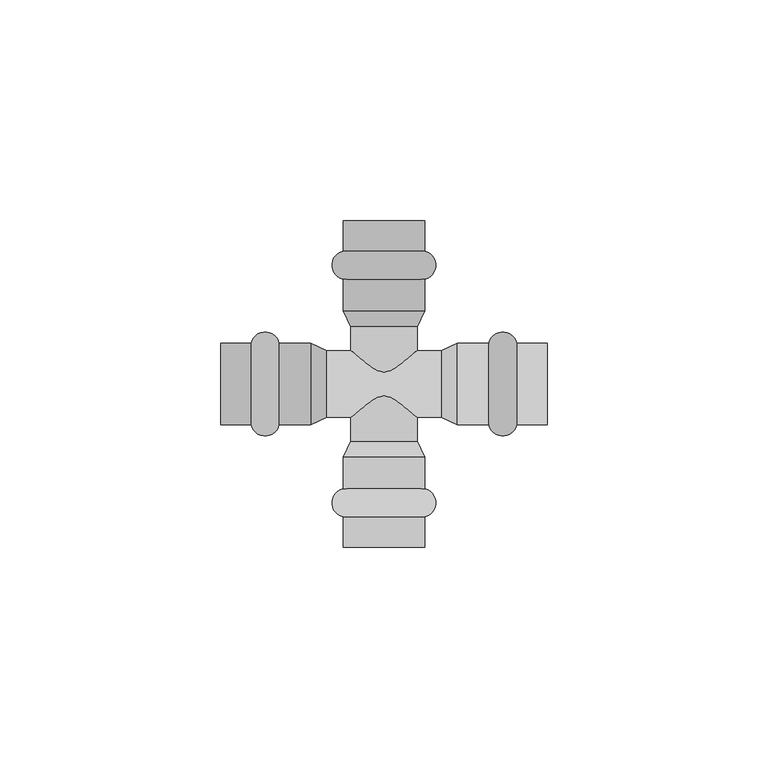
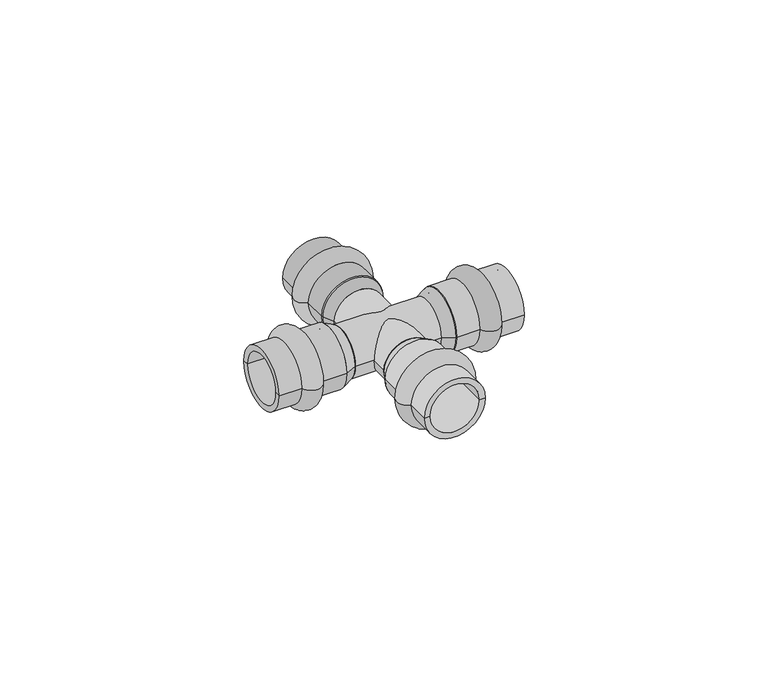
"""IFC4 building model written with IfcOpenShell, lengths in millimetres: pipe fitting geometry, VALTEC_VTi.941.I_Крестовина нержавеющая сталь : VTi.941.I."""

from ifc_helpers import new_model, si_unit, point, frame, origin, origin_2d, place, context, project, spatial, polyline, circle_curve, ellipse_curve, trimmed, segment, composite_curve, outline, extrude, source, transform, mapped, element, save
from ifc_brep_helpers import plane_surface, cylinder_surface, revolved_surface, advanced_brep


def pipe_fitting_6b53da01(model_context):
    return source(origin(), model_context, "Body", "SolidModel", [
        advanced_brep(
        [(9.25, -30.1122777, 0.0), (-9.25, -30.1122777, 0.0), (-9.25, -23.7877223, 0.0), (9.25, -23.7877223, 0.0), (9.25, -37.0, 0.0), (-9.25, -37.0, 0.0), (7.5, -37.0, 0.0), (-7.5, -37.0, 0.0), (7.5, -16.65, 0.0), (-7.5, -16.65, 0.0), (9.25, -16.65, 0.0), (-9.25, -16.65, 0.0)],
        [
            (0, 1, circle_curve(frame((0.0, -30.1122777, 0.0), z_axis=(0.0, 1.0, 0.0), x_axis=(-1.0, 0.0, 0.0)), 9.25)),
            (1, 2, circle_curve(frame((-8.5, -26.95, 0.0), z_axis=(0.0, 0.0, -1.0), x_axis=(0.0, 1.0, 0.0)), 3.25)),
            (2, 3, circle_curve(frame((0.0, -23.7877223, 0.0), z_axis=(0.0, -1.0, 0.0), x_axis=(-1.0, 0.0, 0.0)), 9.25)),
            (3, 0, circle_curve(frame((8.5, -26.95, 0.0), z_axis=(0.0, 0.0, -1.0), x_axis=(0.0, 1.0, 0.0)), 3.25)),
            (1, 0, circle_curve(frame((0.0, -30.1122777, 0.0), z_axis=(0.0, 1.0, 0.0), x_axis=(-1.0, 0.0, 0.0)), 9.25)),
            (3, 2, circle_curve(frame((0.0, -23.7877223, 0.0), z_axis=(0.0, -1.0, 0.0), x_axis=(-1.0, 0.0, 0.0)), 9.25)),
            (4, 5, circle_curve(frame((0.0, -37.0, 0.0), z_axis=(0.0, 1.0, 0.0), x_axis=(-1.0, 0.0, 0.0)), 9.25)),
            (5, 1),
            (0, 4),
            (5, 4, circle_curve(frame((0.0, -37.0, 0.0), z_axis=(0.0, 1.0, 0.0), x_axis=(-1.0, 0.0, 0.0)), 9.25)),
            (6, 7, circle_curve(frame((0.0, -37.0, 0.0), z_axis=(0.0, 1.0, 0.0), x_axis=(-1.0, 0.0, 0.0)), 7.5)),
            (7, 5),
            (4, 6),
            (7, 6, circle_curve(frame((0.0, -37.0, 0.0), z_axis=(0.0, 1.0, 0.0), x_axis=(-1.0, 0.0, 0.0)), 7.5)),
            (8, 9, circle_curve(frame((0.0, -16.65, 0.0), z_axis=(0.0, 1.0, 0.0), x_axis=(-1.0, 0.0, 0.0)), 7.5)),
            (9, 7),
            (6, 8),
            (9, 8, circle_curve(frame((0.0, -16.65, 0.0), z_axis=(0.0, 1.0, 0.0), x_axis=(-1.0, 0.0, 0.0)), 7.5)),
            (10, 11, circle_curve(frame((0.0, -16.65, 0.0), z_axis=(0.0, 1.0, 0.0), x_axis=(-1.0, 0.0, 0.0)), 9.25)),
            (11, 9),
            (8, 10),
            (11, 10, circle_curve(frame((0.0, -16.65, 0.0), z_axis=(0.0, 1.0, 0.0), x_axis=(-1.0, 0.0, 0.0)), 9.25)),
            (2, 11),
            (10, 3),
        ],
        [
            revolved_surface(trimmed(ellipse_curve(frame((-8.5, -26.95, 0.0), z_axis=(0.0, 0.0, 1.0), x_axis=(0.0, 1.0, 0.0)), 3.25, 3.25), [point((-9.25, -23.7877223, 0.0))], [point((-9.25, -30.1122777, 0.0))], True, "CARTESIAN"), (0.0, -40.5364426, 0.0), (0.0, -1.0, 0.0)),
            cylinder_surface(frame((0.0, -40.5364426, 0.0), z_axis=(0.0, -1.0, 0.0), x_axis=(-1.0, 0.0, 0.0)), 9.25),
            plane_surface(frame((0.0, -37.0, 0.0), z_axis=(0.0, -1.0, 0.0), x_axis=(-1.0, 0.0, 0.0))),
            revolved_surface(polyline([(-7.5, -37.0, 0.0), (-7.5, -16.65, 0.0)]), (0.0, -40.5364426, 0.0), (0.0, -1.0, 0.0)),
            plane_surface(frame((0.0, -16.65, 0.0), z_axis=(0.0, 1.0, 0.0), x_axis=(-1.0, 0.0, 0.0))),
        ],
        [
            (0, [[1, 2, 3, 4]]),
            (0, [[5, -4, 6, -2]]),
            (1, [[7, 8, -1, 9]]),
            (1, [[10, -9, -5, -8]]),
            (2, [[11, 12, -7, 13]]),
            (2, [[14, -13, -10, -12]]),
            (3, [[15, 16, -11, 17]]),
            (3, [[18, -17, -14, -16]]),
            (4, [[19, 20, -15, 21]]),
            (4, [[22, -21, -18, -20]]),
            (1, [[-3, 23, -19, 24]]),
            (1, [[-6, -24, -22, -23]]),
        ],
    ),
        advanced_brep(
        [(30.1122777, 9.25, 0.0), (30.1122777, -9.25, 0.0), (23.7877223, -9.25, 0.0), (23.7877223, 9.25, 0.0), (37.0, 9.25, 0.0), (37.0, -9.25, 0.0), (37.0, 7.5, 0.0), (37.0, -7.5, 0.0), (16.65, 7.5, 0.0), (16.65, -7.5, 0.0), (16.65, 9.25, 0.0), (16.65, -9.25, 0.0)],
        [
            (0, 1, circle_curve(frame((30.1122777, 0.0, 0.0), z_axis=(-1.0, 0.0, 0.0), x_axis=(0.0, -1.0, 0.0)), 9.25)),
            (1, 2, circle_curve(frame((26.95, -8.5, 0.0), z_axis=(0.0, 0.0, -1.0), x_axis=(-1.0, 0.0, 0.0)), 3.25)),
            (2, 3, circle_curve(frame((23.7877223, 0.0, 0.0), z_axis=(1.0, 0.0, 0.0), x_axis=(0.0, -1.0, 0.0)), 9.25)),
            (3, 0, circle_curve(frame((26.95, 8.5, 0.0), z_axis=(0.0, 0.0, -1.0), x_axis=(-1.0, 0.0, 0.0)), 3.25)),
            (1, 0, circle_curve(frame((30.1122777, 0.0, 0.0), z_axis=(-1.0, 0.0, 0.0), x_axis=(0.0, -1.0, 0.0)), 9.25)),
            (3, 2, circle_curve(frame((23.7877223, 0.0, 0.0), z_axis=(1.0, 0.0, 0.0), x_axis=(0.0, -1.0, 0.0)), 9.25)),
            (4, 5, circle_curve(frame((37.0, 0.0, 0.0), z_axis=(-1.0, 0.0, 0.0), x_axis=(0.0, -1.0, 0.0)), 9.25)),
            (5, 1),
            (0, 4),
            (5, 4, circle_curve(frame((37.0, 0.0, 0.0), z_axis=(-1.0, 0.0, 0.0), x_axis=(0.0, -1.0, 0.0)), 9.25)),
            (6, 7, circle_curve(frame((37.0, 0.0, 0.0), z_axis=(-1.0, 0.0, 0.0), x_axis=(0.0, -1.0, 0.0)), 7.5)),
            (7, 5),
            (4, 6),
            (7, 6, circle_curve(frame((37.0, 0.0, 0.0), z_axis=(-1.0, 0.0, 0.0), x_axis=(0.0, -1.0, 0.0)), 7.5)),
            (8, 9, circle_curve(frame((16.65, 0.0, 0.0), z_axis=(-1.0, 0.0, 0.0), x_axis=(0.0, -1.0, 0.0)), 7.5)),
            (9, 7),
            (6, 8),
            (9, 8, circle_curve(frame((16.65, 0.0, 0.0), z_axis=(-1.0, 0.0, 0.0), x_axis=(0.0, -1.0, 0.0)), 7.5)),
            (10, 11, circle_curve(frame((16.65, 0.0, 0.0), z_axis=(-1.0, 0.0, 0.0), x_axis=(0.0, -1.0, 0.0)), 9.25)),
            (11, 9),
            (8, 10),
            (11, 10, circle_curve(frame((16.65, 0.0, 0.0), z_axis=(-1.0, 0.0, 0.0), x_axis=(0.0, -1.0, 0.0)), 9.25)),
            (2, 11),
            (10, 3),
        ],
        [
            revolved_surface(trimmed(ellipse_curve(frame((26.95, -8.5, 0.0), z_axis=(0.0, 0.0, 1.0), x_axis=(-1.0, 0.0, 0.0)), 3.25, 3.25), [point((23.7877223, -9.25, 0.0))], [point((30.1122777, -9.25, 0.0))], True, "CARTESIAN"), (40.5364426, 0.0, 0.0), (1.0, 0.0, 0.0)),
            cylinder_surface(frame((40.5364426, 0.0, 0.0), z_axis=(1.0, 0.0, 0.0), x_axis=(0.0, -1.0, 0.0)), 9.25),
            plane_surface(frame((37.0, 0.0, 0.0), z_axis=(1.0, 0.0, 0.0), x_axis=(0.0, -1.0, 0.0))),
            revolved_surface(polyline([(37.0, -7.5, 0.0), (16.65, -7.5, 0.0)]), (40.5364426, 0.0, 0.0), (1.0, 0.0, 0.0)),
            plane_surface(frame((16.65, 0.0, 0.0), z_axis=(-1.0, 0.0, 0.0), x_axis=(0.0, -1.0, 0.0))),
        ],
        [
            (0, [[1, 2, 3, 4]]),
            (0, [[5, -4, 6, -2]]),
            (1, [[7, 8, -1, 9]]),
            (1, [[10, -9, -5, -8]]),
            (2, [[11, 12, -7, 13]]),
            (2, [[14, -13, -10, -12]]),
            (3, [[15, 16, -11, 17]]),
            (3, [[18, -17, -14, -16]]),
            (4, [[19, 20, -15, 21]]),
            (4, [[22, -21, -18, -20]]),
            (1, [[-3, 23, -19, 24]]),
            (1, [[-6, -24, -22, -23]]),
        ],
    ),
        advanced_brep(
        [(-30.1122777, -9.25, 0.0), (-30.1122777, 9.25, 0.0), (-23.7877223, 9.25, 0.0), (-23.7877223, -9.25, 0.0), (-37.0, -9.25, 0.0), (-37.0, 9.25, 0.0), (-37.0, -7.5, 0.0), (-37.0, 7.5, 0.0), (-16.65, -7.5, 0.0), (-16.65, 7.5, 0.0), (-16.65, -9.25, 0.0), (-16.65, 9.25, 0.0)],
        [
            (0, 1, circle_curve(frame((-30.1122777, 0.0, 0.0), z_axis=(1.0, 0.0, 0.0), x_axis=(0.0, 1.0, 0.0)), 9.25)),
            (1, 2, circle_curve(frame((-26.95, 8.5, 0.0), z_axis=(0.0, 0.0, -1.0), x_axis=(1.0, 0.0, 0.0)), 3.25)),
            (2, 3, circle_curve(frame((-23.7877223, 0.0, 0.0), z_axis=(-1.0, 0.0, 0.0), x_axis=(0.0, 1.0, 0.0)), 9.25)),
            (3, 0, circle_curve(frame((-26.95, -8.5, 0.0), z_axis=(0.0, 0.0, -1.0), x_axis=(1.0, 0.0, 0.0)), 3.25)),
            (1, 0, circle_curve(frame((-30.1122777, 0.0, 0.0), z_axis=(1.0, 0.0, 0.0), x_axis=(0.0, 1.0, 0.0)), 9.25)),
            (3, 2, circle_curve(frame((-23.7877223, 0.0, 0.0), z_axis=(-1.0, 0.0, 0.0), x_axis=(0.0, 1.0, 0.0)), 9.25)),
            (4, 5, circle_curve(frame((-37.0, 0.0, 0.0), z_axis=(1.0, 0.0, 0.0), x_axis=(0.0, 1.0, 0.0)), 9.25)),
            (5, 1),
            (0, 4),
            (5, 4, circle_curve(frame((-37.0, 0.0, 0.0), z_axis=(1.0, 0.0, 0.0), x_axis=(0.0, 1.0, 0.0)), 9.25)),
            (6, 7, circle_curve(frame((-37.0, 0.0, 0.0), z_axis=(1.0, 0.0, 0.0), x_axis=(0.0, 1.0, 0.0)), 7.5)),
            (7, 5),
            (4, 6),
            (7, 6, circle_curve(frame((-37.0, 0.0, 0.0), z_axis=(1.0, 0.0, 0.0), x_axis=(0.0, 1.0, 0.0)), 7.5)),
            (8, 9, circle_curve(frame((-16.65, 0.0, 0.0), z_axis=(1.0, 0.0, 0.0), x_axis=(0.0, 1.0, 0.0)), 7.5)),
            (9, 7),
            (6, 8),
            (9, 8, circle_curve(frame((-16.65, 0.0, 0.0), z_axis=(1.0, 0.0, 0.0), x_axis=(0.0, 1.0, 0.0)), 7.5)),
            (10, 11, circle_curve(frame((-16.65, 0.0, 0.0), z_axis=(1.0, 0.0, 0.0), x_axis=(0.0, 1.0, 0.0)), 9.25)),
            (11, 9),
            (8, 10),
            (11, 10, circle_curve(frame((-16.65, 0.0, 0.0), z_axis=(1.0, 0.0, 0.0), x_axis=(0.0, 1.0, 0.0)), 9.25)),
            (2, 11),
            (10, 3),
        ],
        [
            revolved_surface(trimmed(ellipse_curve(frame((-26.95, 8.5, 0.0), z_axis=(0.0, 0.0, 1.0), x_axis=(1.0, 0.0, 0.0)), 3.25, 3.25), [point((-23.7877223, 9.25, 0.0))], [point((-30.1122777, 9.25, 0.0))], True, "CARTESIAN"), (-40.5364426, 0.0, 0.0), (-1.0, 0.0, 0.0)),
            cylinder_surface(frame((-40.5364426, 0.0, 0.0), z_axis=(-1.0, 0.0, 0.0), x_axis=(0.0, 1.0, 0.0)), 9.25),
            plane_surface(frame((-37.0, 0.0, 0.0), z_axis=(-1.0, 0.0, 0.0), x_axis=(0.0, 1.0, 0.0))),
            revolved_surface(polyline([(-37.0, 7.5, 0.0), (-16.65, 7.5, 0.0)]), (-40.5364426, 0.0, 0.0), (-1.0, 0.0, 0.0)),
            plane_surface(frame((-16.65, 0.0, 0.0), z_axis=(1.0, 0.0, 0.0), x_axis=(0.0, 1.0, 0.0))),
        ],
        [
            (0, [[1, 2, 3, 4]]),
            (0, [[5, -4, 6, -2]]),
            (1, [[7, 8, -1, 9]]),
            (1, [[10, -9, -5, -8]]),
            (2, [[11, 12, -7, 13]]),
            (2, [[14, -13, -10, -12]]),
            (3, [[15, 16, -11, 17]]),
            (3, [[18, -17, -14, -16]]),
            (4, [[19, 20, -15, 21]]),
            (4, [[22, -21, -18, -20]]),
            (1, [[-3, 23, -19, 24]]),
            (1, [[-6, -24, -22, -23]]),
        ],
    ),
        advanced_brep(
        [(-9.25, 30.1122777, 0.0), (9.25, 30.1122777, 0.0), (9.25, 23.7877223, 0.0), (-9.25, 23.7877223, 0.0), (-9.25, 37.0, 0.0), (9.25, 37.0, 0.0), (-7.5, 37.0, 0.0), (7.5, 37.0, 0.0), (-7.5, 16.65, 0.0), (7.5, 16.65, 0.0), (-9.25, 16.65, 0.0), (9.25, 16.65, 0.0)],
        [
            (0, 1, circle_curve(frame((0.0, 30.1122777, 0.0), z_axis=(0.0, -1.0, 0.0), x_axis=(1.0, 0.0, 0.0)), 9.25)),
            (1, 2, circle_curve(frame((8.5, 26.95, 0.0), z_axis=(0.0, 0.0, -1.0), x_axis=(0.0, -1.0, 0.0)), 3.25)),
            (2, 3, circle_curve(frame((0.0, 23.7877223, 0.0), z_axis=(0.0, 1.0, 0.0), x_axis=(1.0, 0.0, 0.0)), 9.25)),
            (3, 0, circle_curve(frame((-8.5, 26.95, 0.0), z_axis=(0.0, 0.0, -1.0), x_axis=(0.0, -1.0, 0.0)), 3.25)),
            (1, 0, circle_curve(frame((0.0, 30.1122777, 0.0), z_axis=(0.0, -1.0, 0.0), x_axis=(1.0, 0.0, 0.0)), 9.25)),
            (3, 2, circle_curve(frame((0.0, 23.7877223, 0.0), z_axis=(0.0, 1.0, 0.0), x_axis=(1.0, 0.0, 0.0)), 9.25)),
            (4, 5, circle_curve(frame((0.0, 37.0, 0.0), z_axis=(0.0, -1.0, 0.0), x_axis=(1.0, 0.0, 0.0)), 9.25)),
            (5, 1),
            (0, 4),
            (5, 4, circle_curve(frame((0.0, 37.0, 0.0), z_axis=(0.0, -1.0, 0.0), x_axis=(1.0, 0.0, 0.0)), 9.25)),
            (6, 7, circle_curve(frame((0.0, 37.0, 0.0), z_axis=(0.0, -1.0, 0.0), x_axis=(1.0, 0.0, 0.0)), 7.5)),
            (7, 5),
            (4, 6),
            (7, 6, circle_curve(frame((0.0, 37.0, 0.0), z_axis=(0.0, -1.0, 0.0), x_axis=(1.0, 0.0, 0.0)), 7.5)),
            (8, 9, circle_curve(frame((0.0, 16.65, 0.0), z_axis=(0.0, -1.0, 0.0), x_axis=(1.0, 0.0, 0.0)), 7.5)),
            (9, 7),
            (6, 8),
            (9, 8, circle_curve(frame((0.0, 16.65, 0.0), z_axis=(0.0, -1.0, 0.0), x_axis=(1.0, 0.0, 0.0)), 7.5)),
            (10, 11, circle_curve(frame((0.0, 16.65, 0.0), z_axis=(0.0, -1.0, 0.0), x_axis=(1.0, 0.0, 0.0)), 9.25)),
            (11, 9),
            (8, 10),
            (11, 10, circle_curve(frame((0.0, 16.65, 0.0), z_axis=(0.0, -1.0, 0.0), x_axis=(1.0, 0.0, 0.0)), 9.25)),
            (2, 11),
            (10, 3),
        ],
        [
            revolved_surface(trimmed(ellipse_curve(frame((8.5, 26.95, 0.0), z_axis=(0.0, 0.0, 1.0), x_axis=(0.0, -1.0, 0.0)), 3.25, 3.25), [point((9.25, 23.7877223, 0.0))], [point((9.25, 30.1122777, 0.0))], True, "CARTESIAN"), (0.0, 40.5364426, 0.0), (0.0, 1.0, 0.0)),
            cylinder_surface(frame((0.0, 40.5364426, 0.0), z_axis=(0.0, 1.0, 0.0), x_axis=(1.0, 0.0, 0.0)), 9.25),
            plane_surface(frame((0.0, 37.0, 0.0), z_axis=(0.0, 1.0, 0.0), x_axis=(1.0, 0.0, 0.0))),
            revolved_surface(polyline([(7.5, 37.0, 0.0), (7.5, 16.65, 0.0)]), (0.0, 40.5364426, 0.0), (0.0, 1.0, 0.0)),
            plane_surface(frame((0.0, 16.65, 0.0), z_axis=(0.0, -1.0, 0.0), x_axis=(1.0, 0.0, 0.0))),
        ],
        [
            (0, [[1, 2, 3, 4]]),
            (0, [[5, -4, 6, -2]]),
            (1, [[7, 8, -1, 9]]),
            (1, [[10, -9, -5, -8]]),
            (2, [[11, 12, -7, 13]]),
            (2, [[14, -13, -10, -12]]),
            (3, [[15, 16, -11, 17]]),
            (3, [[18, -17, -14, -16]]),
            (4, [[19, 20, -15, 21]]),
            (4, [[22, -21, -18, -20]]),
            (1, [[-3, 23, -19, 24]]),
            (1, [[-6, -24, -22, -23]]),
        ],
    ),
        extrude(outline(composite_curve([segment(trimmed(circle_curve(origin_2d(), 7.5), [point((-7.5, 0.0))], [point((7.5, 0.0))], False, "CARTESIAN"), True, "CONTINUOUS"), segment(trimmed(circle_curve(origin_2d(), 7.5), [point((7.5, 0.0))], [point((-7.5, 0.0))], False, "CARTESIAN"), True, "CONTINUOUS")], self_intersect=False)), frame((-12.95, 0.0, 0.0), z_axis=(1.0, 0.0, 0.0), x_axis=(0.0, 1.0, 0.0)), (0.0, 0.0, 1.0), 25.9),
        extrude(outline(composite_curve([segment(trimmed(circle_curve(origin_2d(), 7.5), [point((0.0, -7.5))], [point((0.0, 7.5))], False, "CARTESIAN"), True, "CONTINUOUS"), segment(trimmed(circle_curve(origin_2d(), 7.5), [point((0.0, 7.5))], [point((0.0, -7.5))], False, "CARTESIAN"), True, "CONTINUOUS")], self_intersect=False)), frame((0.0, -12.95, 0.0), z_axis=(0.0, 1.0, 0.0), x_axis=(0.0, 0.0, 1.0)), (0.0, 0.0, 1.0), 25.9),
        advanced_brep(
        [(-16.65, -9.25, 0.0), (-16.65, 9.25, 0.0), (-12.95, -7.5, 0.0), (-12.95, 7.5, 0.0)],
        [
            (0, 1, circle_curve(frame((-16.65, 0.0, 0.0), z_axis=(-1.0, 0.0, 0.0), x_axis=(0.0, -1.0, 0.0)), 9.25)),
            (1, 0, circle_curve(frame((-16.65, 0.0, 0.0), z_axis=(-1.0, 0.0, 0.0), x_axis=(0.0, 1.0, 0.0)), 9.25)),
            (2, 3, circle_curve(frame((-12.95, 0.0, 0.0), z_axis=(1.0, 0.0, 0.0), x_axis=(0.0, 1.0, 0.0)), 7.5)),
            (3, 2, circle_curve(frame((-12.95, 0.0, 0.0), z_axis=(1.0, 0.0, 0.0), x_axis=(0.0, -1.0, 0.0)), 7.5)),
            (2, 0),
            (1, 3),
        ],
        [
            plane_surface(frame((-16.65, 0.0, 0.0), z_axis=(-1.0, 0.0, 0.0), x_axis=(0.0, 0.0, 1.0))),
            plane_surface(frame((-12.95, 0.0, 0.0), z_axis=(1.0, 0.0, 0.0), x_axis=(0.0, 0.0, 1.0))),
            revolved_surface(polyline([(-12.95, -7.500000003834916, 0.0), (-16.65, -9.25, 0.0)]), (2.9071429, 0.0, 0.0), (-1.0, 0.0, 0.0)),
            revolved_surface(polyline([(-12.95, 7.500000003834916, 0.0), (-16.65, 9.25, 0.0)]), (2.9071429, 0.0, 0.0), (-1.0, 0.0, 0.0)),
        ],
        [
            (0, [[1, 2]]),
            (1, [[3, 4]]),
            (2, [[-3, 5, -2, 6]]),
            (3, [[-4, -6, -1, -5]]),
        ],
    ),
        advanced_brep(
        [(16.65, -9.25, 0.0), (16.65, 9.25, 0.0), (12.95, -7.5, 0.0), (12.95, 7.5, 0.0)],
        [
            (0, 1, circle_curve(frame((16.65, 0.0, 0.0), z_axis=(1.0, 0.0, 0.0), x_axis=(0.0, -1.0, 0.0)), 9.25)),
            (1, 0, circle_curve(frame((16.65, 0.0, 0.0), z_axis=(1.0, 0.0, 0.0), x_axis=(0.0, 1.0, 0.0)), 9.25)),
            (2, 3, circle_curve(frame((12.95, 0.0, 0.0), z_axis=(-1.0, 0.0, 0.0), x_axis=(0.0, 1.0, 0.0)), 7.5)),
            (3, 2, circle_curve(frame((12.95, 0.0, 0.0), z_axis=(-1.0, 0.0, 0.0), x_axis=(0.0, -1.0, 0.0)), 7.5)),
            (3, 1),
            (0, 2),
        ],
        [
            plane_surface(frame((16.65, 0.0, 0.0), z_axis=(1.0, 0.0, 0.0), x_axis=(0.0, 0.0, -1.0))),
            plane_surface(frame((12.95, 0.0, 0.0), z_axis=(-1.0, 0.0, 0.0), x_axis=(0.0, 0.0, -1.0))),
            revolved_surface(polyline([(12.95, 7.500000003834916, 0.0), (16.65, 9.25, 0.0)]), (-2.9071429, 0.0, 0.0), (1.0, 0.0, 0.0)),
            revolved_surface(polyline([(12.95, -7.500000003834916, 0.0), (16.65, -9.25, 0.0)]), (-2.9071429, 0.0, 0.0), (1.0, 0.0, 0.0)),
        ],
        [
            (0, [[1, 2]]),
            (1, [[3, 4]]),
            (2, [[-4, 5, -1, 6]]),
            (3, [[-3, -6, -2, -5]]),
        ],
    ),
        advanced_brep(
        [(-9.25, -16.65, 0.0), (9.25, -16.65, 0.0), (-7.5, -12.95, 0.0), (7.5, -12.95, 0.0)],
        [
            (0, 1, circle_curve(frame((0.0, -16.65, 0.0), z_axis=(0.0, -1.0, 0.0), x_axis=(-1.0, 0.0, 0.0)), 9.25)),
            (1, 0, circle_curve(frame((0.0, -16.65, 0.0), z_axis=(0.0, -1.0, 0.0), x_axis=(1.0, 0.0, 0.0)), 9.25)),
            (2, 3, circle_curve(frame((0.0, -12.95, 0.0), z_axis=(0.0, 1.0, 0.0), x_axis=(1.0, 0.0, 0.0)), 7.5)),
            (3, 2, circle_curve(frame((0.0, -12.95, 0.0), z_axis=(0.0, 1.0, 0.0), x_axis=(-1.0, 0.0, 0.0)), 7.5)),
            (3, 1),
            (0, 2),
        ],
        [
            plane_surface(frame((0.0, -16.65, 0.0), z_axis=(0.0, -1.0, 0.0), x_axis=(0.0, 0.0, 1.0))),
            plane_surface(frame((0.0, -12.95, 0.0), z_axis=(0.0, 1.0, 0.0), x_axis=(0.0, 0.0, 1.0))),
            revolved_surface(polyline([(7.500000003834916, -12.95, 0.0), (9.25, -16.65, 0.0)]), (0.0, 2.9071429, 0.0), (0.0, -1.0, 0.0)),
            revolved_surface(polyline([(-7.500000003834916, -12.95, 0.0), (-9.25, -16.65, 0.0)]), (0.0, 2.9071429, 0.0), (0.0, -1.0, 0.0)),
        ],
        [
            (0, [[1, 2]]),
            (1, [[3, 4]]),
            (2, [[-4, 5, -1, 6]]),
            (3, [[-3, -6, -2, -5]]),
        ],
    ),
        advanced_brep(
        [(-9.25, 16.65, 0.0), (9.25, 16.65, 0.0), (-7.5, 12.95, 0.0), (7.5, 12.95, 0.0)],
        [
            (0, 1, circle_curve(frame((0.0, 16.65, 0.0), z_axis=(0.0, 1.0, 0.0), x_axis=(-1.0, 0.0, 0.0)), 9.25)),
            (1, 0, circle_curve(frame((0.0, 16.65, 0.0), z_axis=(0.0, 1.0, 0.0), x_axis=(1.0, 0.0, 0.0)), 9.25)),
            (2, 3, circle_curve(frame((0.0, 12.95, 0.0), z_axis=(0.0, -1.0, 0.0), x_axis=(1.0, 0.0, 0.0)), 7.5)),
            (3, 2, circle_curve(frame((0.0, 12.95, 0.0), z_axis=(0.0, -1.0, 0.0), x_axis=(-1.0, 0.0, 0.0)), 7.5)),
            (2, 0),
            (1, 3),
        ],
        [
            plane_surface(frame((0.0, 16.65, 0.0), z_axis=(0.0, 1.0, 0.0), x_axis=(0.0, 0.0, -1.0))),
            plane_surface(frame((0.0, 12.95, 0.0), z_axis=(0.0, -1.0, 0.0), x_axis=(0.0, 0.0, -1.0))),
            revolved_surface(polyline([(-7.500000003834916, 12.95, 0.0), (-9.25, 16.65, 0.0)]), (0.0, -2.9071429, 0.0), (0.0, 1.0, 0.0)),
            revolved_surface(polyline([(7.500000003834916, 12.95, 0.0), (9.25, 16.65, 0.0)]), (0.0, -2.9071429, 0.0), (0.0, 1.0, 0.0)),
        ],
        [
            (0, [[1, 2]]),
            (1, [[3, 4]]),
            (2, [[-3, 5, -2, 6]]),
            (3, [[-4, -6, -1, -5]]),
        ],
    ),
    ])


if __name__ == "__main__":
    model = new_model("IFC4")
    model_context = context("Model", 3, world=origin())
    ifc_project = project(units=[si_unit("LENGTHUNIT", "METRE", prefix="MILLI")], contexts=[model_context])
    site = spatial("IfcSite", under=ifc_project)
    building = spatial("IfcBuilding", under=site)
    placement = place(None, origin())
    pipe_fitting_shape = pipe_fitting_6b53da01(model_context)
    element("IfcPipeFitting", 1, ObjectType="VALTEC_VTi.941.I_Крестовина нержавеющая сталь : VTi.941.I", at=placement, inside=building, context=model_context, shape_type="MappedRepresentation", body=[
        mapped(pipe_fitting_shape, transform((0.0, 0.0, 0.0), x_axis=(1.0, 0.0, 0.0), y_axis=(0.0, 1.0, 0.0), z_axis=(0.0, 0.0, 1.0))),
    ])
    save(model, "model.ifc")
